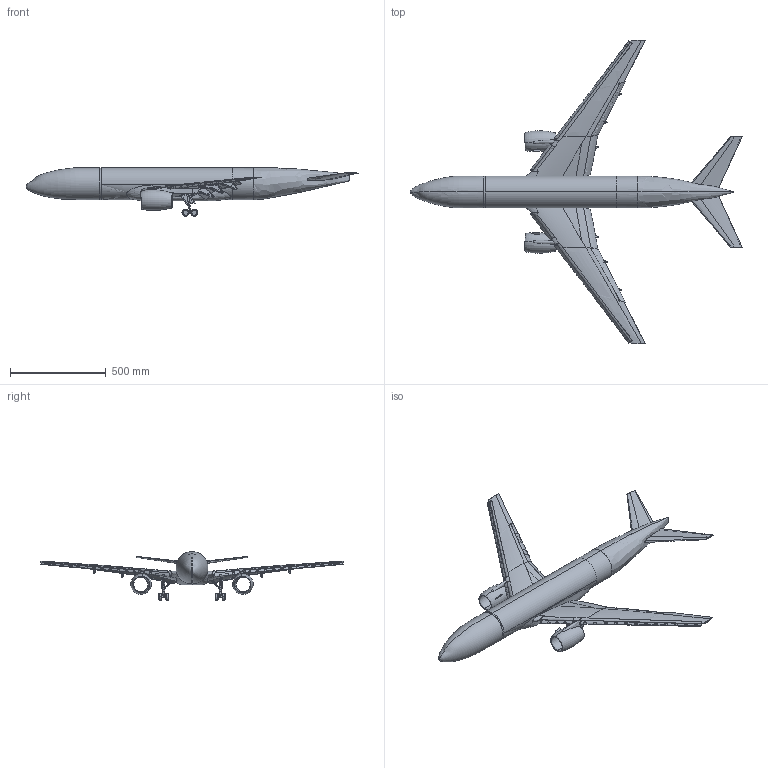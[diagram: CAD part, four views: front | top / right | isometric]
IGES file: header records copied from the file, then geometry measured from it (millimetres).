
Global section: file name: Z:\prj5.0\crm-hl-2p7-rivers\outgoing\geometry\3001000_fullspan_configs_2025_07_01\3001000_FULL_SPAN_LANDING_CONFIG_clean_2025_07_01.igs; native system: NX V12.0; preprocessor: SIEMENS PLM Software NX 12.0; date: 20250702.133323; units: inch
Bounding box: 1737.79 x 1590.95 x 253.97 mm (x, y, z)
Surface area: 1802554.3 mm2 (no closed solid volume)
Topology: 0 solids, 0 shells, 1640 faces, 12245 edges, 12214 vertices
Faces by surface type: bspline 1640
